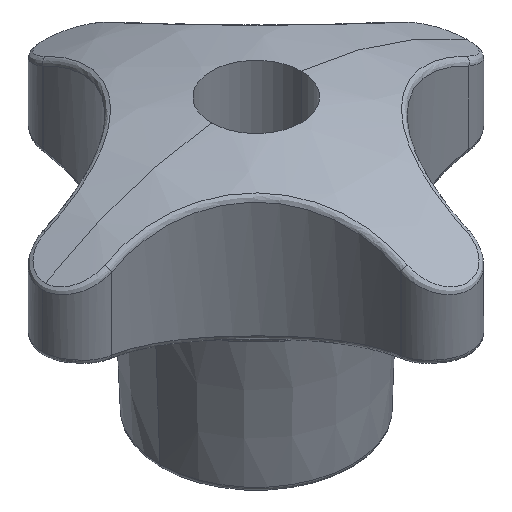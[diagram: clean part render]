
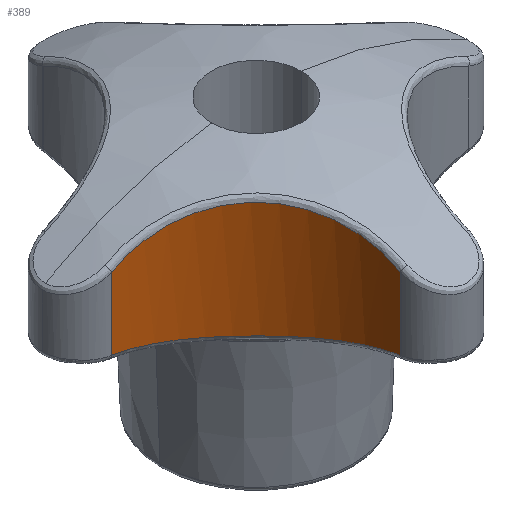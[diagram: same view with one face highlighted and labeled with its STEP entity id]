
A CAD part, isometric view. The second image highlights one B-rep face of the part: STEP entity #389.
In plain terms, the highlighted cylindrical face has radius 13.231 mm (diameter 26.462 mm), a partial arc.
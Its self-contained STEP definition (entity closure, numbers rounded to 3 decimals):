
#103 = EDGE_CURVE ( 'NONE', #4730, #7449, #418, .T. ) ;
#114 = ORIENTED_EDGE ( 'NONE', *, *, #103, .T. ) ;
#389 = ADVANCED_FACE ( 'NONE', ( #1284 ), #1265, .F. ) ;
#390 = ORIENTED_EDGE ( 'NONE', *, *, #6156, .T. ) ;
#391 = VERTEX_POINT ( 'NONE', #1335 ) ;
#392 = ORIENTED_EDGE ( 'NONE', *, *, #413, .T. ) ;
#393 = EDGE_CURVE ( 'NONE', #4730, #391, #1298, .T. ) ;
#394 = ORIENTED_EDGE ( 'NONE', *, *, #393, .F. ) ;
#397 = EDGE_LOOP ( 'NONE', ( #390, #392, #394, #114 ) ) ;
#413 = EDGE_CURVE ( 'NONE', #6108, #391, #1420, .T. ) ;
#418 = B_SPLINE_CURVE_WITH_KNOTS ( 'NONE', 3,
 ( #420, #419, #474, #473, #472, #471, #470, #469, #468, #467, #466, #465, #464, #463, #462, #461, #460, #459, #458, #457, #456, #455, #454, #453, #452, #451, #450, #449 ),
 .UNSPECIFIED., .F., .F.,
 ( 4, 2, 2, 2, 2, 2, 2, 2, 2, 2, 2, 2, 2, 4 ),
 ( 0., 0.003, 0.004, 0.006, 0.008, 0.01, 0.011, 0.012, 0.014, 0.015, 0.017, 0.019, 0.021, 0.022 ),
 .UNSPECIFIED. ) ;
#419 = CARTESIAN_POINT ( 'NONE',  ( -3.18, -15.875, 21.944 ) ) ;
#420 = CARTESIAN_POINT ( 'NONE',  ( -3.199, -16.708, 21.517 ) ) ;
#449 = CARTESIAN_POINT ( 'NONE',  ( -16.727, -3.18, 21.509 ) ) ;
#450 = CARTESIAN_POINT ( 'NONE',  ( -16.31, -3.17, 21.723 ) ) ;
#451 = CARTESIAN_POINT ( 'NONE',  ( -15.89, -3.18, 21.927 ) ) ;
#452 = CARTESIAN_POINT ( 'NONE',  ( -15.041, -3.242, 22.315 ) ) ;
#453 = CARTESIAN_POINT ( 'NONE',  ( -14.612, -3.294, 22.498 ) ) ;
#454 = CARTESIAN_POINT ( 'NONE',  ( -13.333, -3.514, 23.012 ) ) ;
#455 = CARTESIAN_POINT ( 'NONE',  ( -12.485, -3.745, 23.306 ) ) ;
#456 = CARTESIAN_POINT ( 'NONE',  ( -11.221, -4.235, 23.672 ) ) ;
#457 = CARTESIAN_POINT ( 'NONE',  ( -10.806, -4.421, 23.78 ) ) ;
#458 = CARTESIAN_POINT ( 'NONE',  ( -9.996, -4.835, 23.966 ) ) ;
#459 = CARTESIAN_POINT ( 'NONE',  ( -9.601, -5.064, 24.044 ) ) ;
#460 = CARTESIAN_POINT ( 'NONE',  ( -8.83, -5.565, 24.17 ) ) ;
#461 = CARTESIAN_POINT ( 'NONE',  ( -8.453, -5.839, 24.218 ) ) ;
#462 = CARTESIAN_POINT ( 'NONE',  ( -7.728, -6.427, 24.282 ) ) ;
#463 = CARTESIAN_POINT ( 'NONE',  ( -7.384, -6.738, 24.297 ) ) ;
#464 = CARTESIAN_POINT ( 'NONE',  ( -6.732, -7.392, 24.297 ) ) ;
#465 = CARTESIAN_POINT ( 'NONE',  ( -6.423, -7.736, 24.281 ) ) ;
#466 = CARTESIAN_POINT ( 'NONE',  ( -5.842, -8.456, 24.217 ) ) ;
#467 = CARTESIAN_POINT ( 'NONE',  ( -5.567, -8.835, 24.168 ) ) ;
#468 = CARTESIAN_POINT ( 'NONE',  ( -4.815, -9.999, 23.977 ) ) ;
#469 = CARTESIAN_POINT ( 'NONE',  ( -4.407, -10.805, 23.792 ) ) ;
#470 = CARTESIAN_POINT ( 'NONE',  ( -3.924, -12.055, 23.43 ) ) ;
#471 = CARTESIAN_POINT ( 'NONE',  ( -3.784, -12.48, 23.294 ) ) ;
#472 = CARTESIAN_POINT ( 'NONE',  ( -3.55, -13.335, 22.998 ) ) ;
#473 = CARTESIAN_POINT ( 'NONE',  ( -3.456, -13.761, 22.838 ) ) ;
#474 = CARTESIAN_POINT ( 'NONE',  ( -3.239, -15.034, 22.327 ) ) ;
#1265 = CYLINDRICAL_SURFACE ( 'NONE', #1320, 13.231 ) ;
#1284 = FACE_OUTER_BOUND ( 'NONE', #397, .T. ) ;
#1298 = LINE ( 'NONE', #1319, #1318 ) ;
#1299 = DIRECTION ( 'NONE',  ( -1., 0., 0. ) ) ;
#1317 = DIRECTION ( 'NONE',  ( 0., 0., -1. ) ) ;
#1318 = VECTOR ( 'NONE', #1317, 1000. ) ;
#1319 = CARTESIAN_POINT ( 'NONE',  ( -3.199, -16.708, 26. ) ) ;
#1320 = AXIS2_PLACEMENT_3D ( 'NONE', #1337, #1336, #1299 ) ;
#1335 = CARTESIAN_POINT ( 'NONE',  ( -3.199, -16.708, 14.763 ) ) ;
#1336 = DIRECTION ( 'NONE',  ( 0., 0., -1. ) ) ;
#1337 = CARTESIAN_POINT ( 'NONE',  ( -16.427, -16.408, 26. ) ) ;
#1420 = B_SPLINE_CURVE_WITH_KNOTS ( 'NONE', 3,
 ( #1473, #1472, #1471, #1470, #1469, #1468, #1467, #1466, #1465, #1464, #1463, #1462, #1461, #1460, #1459, #1458, #1457, #1456, #1455, #1454, #1453, #1452 ),
 .UNSPECIFIED., .F., .F.,
 ( 4, 2, 2, 2, 2, 2, 2, 2, 2, 2, 4 ),
 ( 0., 0.003, 0.004, 0.005, 0.008, 0.009, 0.011, 0.013, 0.016, 0.019, 0.021 ),
 .UNSPECIFIED. ) ;
#1452 = CARTESIAN_POINT ( 'NONE',  ( -3.199, -16.708, 14.763 ) ) ;
#1453 = CARTESIAN_POINT ( 'NONE',  ( -3.179, -15.816, 14.601 ) ) ;
#1454 = CARTESIAN_POINT ( 'NONE',  ( -3.248, -14.934, 14.444 ) ) ;
#1455 = CARTESIAN_POINT ( 'NONE',  ( -3.562, -13.191, 14.143 ) ) ;
#1456 = CARTESIAN_POINT ( 'NONE',  ( -3.811, -12.323, 13.999 ) ) ;
#1457 = CARTESIAN_POINT ( 'NONE',  ( -4.47, -10.673, 13.749 ) ) ;
#1458 = CARTESIAN_POINT ( 'NONE',  ( -4.881, -9.883, 13.642 ) ) ;
#1459 = CARTESIAN_POINT ( 'NONE',  ( -5.876, -8.373, 13.49 ) ) ;
#1460 = CARTESIAN_POINT ( 'NONE',  ( -6.443, -7.679, 13.449 ) ) ;
#1461 = CARTESIAN_POINT ( 'NONE',  ( -7.392, -6.732, 13.45 ) ) ;
#1462 = CARTESIAN_POINT ( 'NONE',  ( -7.724, -6.431, 13.46 ) ) ;
#1463 = CARTESIAN_POINT ( 'NONE',  ( -8.424, -5.861, 13.501 ) ) ;
#1464 = CARTESIAN_POINT ( 'NONE',  ( -8.791, -5.593, 13.531 ) ) ;
#1465 = CARTESIAN_POINT ( 'NONE',  ( -9.912, -4.857, 13.645 ) ) ;
#1466 = CARTESIAN_POINT ( 'NONE',  ( -10.699, -4.447, 13.752 ) ) ;
#1467 = CARTESIAN_POINT ( 'NONE',  ( -11.939, -3.953, 13.94 ) ) ;
#1468 = CARTESIAN_POINT ( 'NONE',  ( -12.365, -3.807, 14.008 ) ) ;
#1469 = CARTESIAN_POINT ( 'NONE',  ( -13.222, -3.563, 14.149 ) ) ;
#1470 = CARTESIAN_POINT ( 'NONE',  ( -13.653, -3.463, 14.222 ) ) ;
#1471 = CARTESIAN_POINT ( 'NONE',  ( -14.955, -3.229, 14.447 ) ) ;
#1472 = CARTESIAN_POINT ( 'NONE',  ( -15.835, -3.16, 14.604 ) ) ;
#1473 = CARTESIAN_POINT ( 'NONE',  ( -16.727, -3.18, 14.766 ) ) ;
#3002 = CARTESIAN_POINT ( 'NONE',  ( -3.199, -16.708, 21.517 ) ) ;
#3017 = DIRECTION ( 'NONE',  ( 0., 0., -1. ) ) ;
#3018 = VECTOR ( 'NONE', #3017, 1000. ) ;
#3020 = CARTESIAN_POINT ( 'NONE',  ( -16.727, -3.18, 26. ) ) ;
#3021 = LINE ( 'NONE', #3020, #3018 ) ;
#3034 = CARTESIAN_POINT ( 'NONE',  ( -16.727, -3.18, 14.766 ) ) ;
#4730 = VERTEX_POINT ( 'NONE', #3002 ) ;
#6039 = CARTESIAN_POINT ( 'NONE',  ( -16.727, -3.18, 21.509 ) ) ;
#6108 = VERTEX_POINT ( 'NONE', #3034 ) ;
#6156 = EDGE_CURVE ( 'NONE', #7449, #6108, #3021, .T. ) ;
#7449 = VERTEX_POINT ( 'NONE', #6039 ) ;
